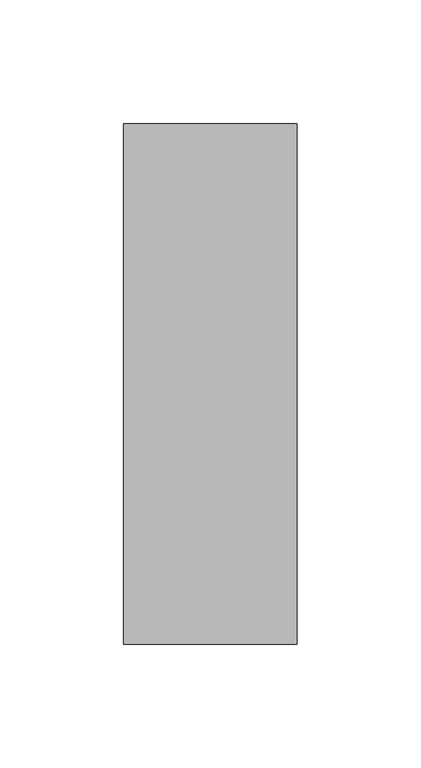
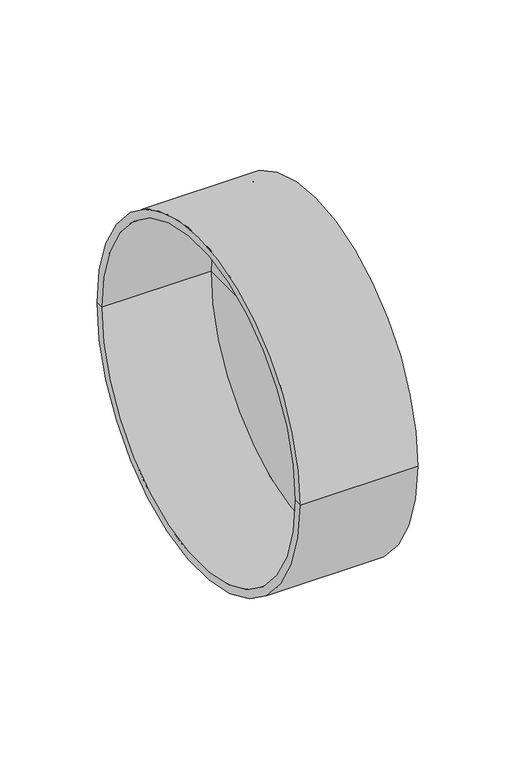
"""IFC4 building model written with IfcOpenShell, lengths in millimetres: pipe fitting geometry, pf_KGK_vicko : pf_KGK_vicko."""

from ifc_helpers import new_model, si_unit, frame, origin, place, context, project, spatial, polyline, circle_curve, source, transform, mapped, element, save
from ifc_brep_helpers import plane_surface, cylinder_surface, revolved_surface, advanced_brep


def pipe_fitting_35860470(model_context):
    return source(origin(), model_context, "Body", "AdvancedBrep", [
        advanced_brep(
        [(-65.0, -104.9, 0.0), (-65.0, 104.9, 0.0), (4.9, 104.9, 0.0), (4.9, -104.9, 0.0), (-65.0, -100.0, 0.0), (-65.0, 100.0, 0.0), (0.0, -100.0, 0.0), (0.0, 100.0, 0.0), (0.0, 0.0, 0.0), (4.9, 0.0, 0.0)],
        [
            (0, 1, circle_curve(frame((-65.0, 0.0, 0.0), z_axis=(1.0, 0.0, 0.0), x_axis=(0.0, 1.0, 0.0)), 104.9)),
            (1, 2),
            (2, 3, circle_curve(frame((4.9, 0.0, 0.0), z_axis=(-1.0, 0.0, 0.0), x_axis=(0.0, 1.0, 0.0)), 104.9)),
            (3, 0),
            (1, 0, circle_curve(frame((-65.0, 0.0, 0.0), z_axis=(1.0, 0.0, 0.0), x_axis=(0.0, 1.0, 0.0)), 104.9)),
            (3, 2, circle_curve(frame((4.9, 0.0, 0.0), z_axis=(-1.0, 0.0, 0.0), x_axis=(0.0, 1.0, 0.0)), 104.9)),
            (4, 5, circle_curve(frame((-65.0, 0.0, 0.0), z_axis=(1.0, 0.0, 0.0), x_axis=(0.0, 1.0, 0.0)), 100.0)),
            (5, 1),
            (0, 4),
            (5, 4, circle_curve(frame((-65.0, 0.0, 0.0), z_axis=(1.0, 0.0, 0.0), x_axis=(0.0, 1.0, 0.0)), 100.0)),
            (6, 7, circle_curve(frame((0.0, 0.0, 0.0), z_axis=(1.0, 0.0, 0.0), x_axis=(0.0, 1.0, 0.0)), 100.0)),
            (7, 5),
            (4, 6),
            (7, 6, circle_curve(frame((0.0, 0.0, 0.0), z_axis=(1.0, 0.0, 0.0), x_axis=(0.0, 1.0, 0.0)), 100.0)),
            (8, 7),
            (6, 8),
            (2, 9),
            (9, 3),
        ],
        [
            cylinder_surface(frame((-56.0241529, 0.0, 0.0), z_axis=(-1.0, 0.0, 0.0), x_axis=(0.0, 1.0, 0.0)), 104.9),
            plane_surface(frame((-65.0, 0.0, 0.0), z_axis=(-1.0, 0.0, 0.0), x_axis=(0.0, 1.0, 0.0))),
            revolved_surface(polyline([(-65.0, 100.0, 0.0), (0.0, 100.0, 0.0)]), (-56.0241529, 0.0, 0.0), (-1.0, 0.0, 0.0)),
            plane_surface(frame((0.0, 0.0, 0.0), z_axis=(-1.0, 0.0, 0.0), x_axis=(0.0, 1.0, 0.0))),
            plane_surface(frame((4.9, 0.0, 0.0), z_axis=(1.0, 0.0, 0.0), x_axis=(0.0, 1.0, 0.0))),
        ],
        [
            (0, [[1, 2, 3, 4]]),
            (0, [[5, -4, 6, -2]]),
            (1, [[7, 8, -1, 9]]),
            (1, [[10, -9, -5, -8]]),
            (2, [[11, 12, -7, 13]]),
            (2, [[14, -13, -10, -12]]),
            (3, [[15, -11, 16]]),
            (3, [[-16, -14, -15]]),
            (4, [[-3, 17, 18]]),
            (4, [[-6, -18, -17]]),
        ],
    ),
    ])


if __name__ == "__main__":
    model = new_model("IFC4")
    model_context = context("Model", 3, world=origin())
    ifc_project = project(units=[si_unit("LENGTHUNIT", "METRE", prefix="MILLI")], contexts=[model_context])
    site = spatial("IfcSite", under=ifc_project)
    building = spatial("IfcBuilding", under=site)
    placement = place(None, origin())
    pipe_fitting_shape = pipe_fitting_35860470(model_context)
    element("IfcPipeFitting", 1, ObjectType="pf_KGK_vicko : pf_KGK_vicko", at=placement, inside=building, context=model_context, shape_type="MappedRepresentation", body=[
        mapped(pipe_fitting_shape, transform((0.0, 0.0, 0.0), x_axis=(1.0, 0.0, 0.0), y_axis=(0.0, 1.0, 0.0), z_axis=(0.0, 0.0, 1.0))),
    ])
    save(model, "model.ifc")
